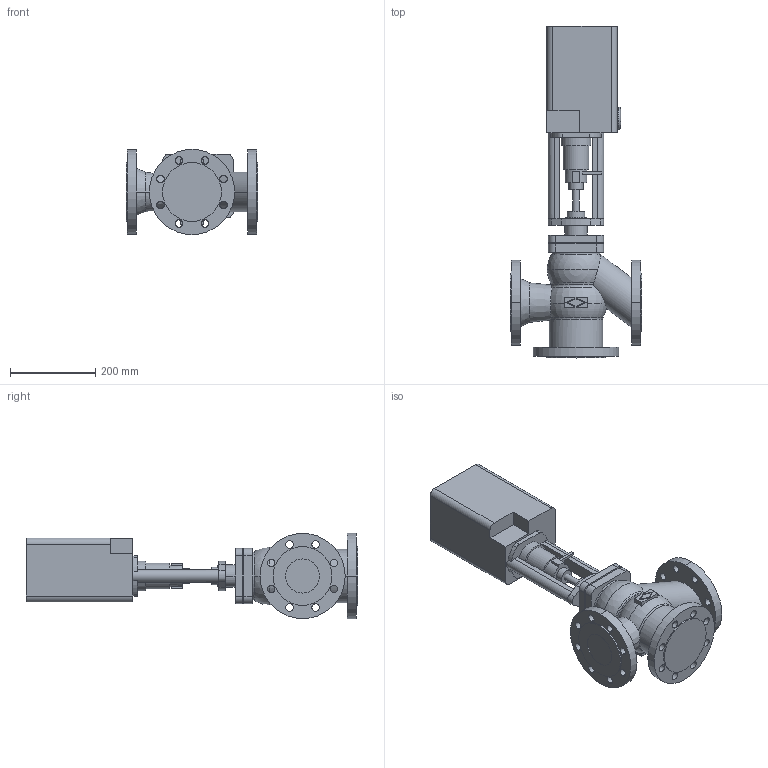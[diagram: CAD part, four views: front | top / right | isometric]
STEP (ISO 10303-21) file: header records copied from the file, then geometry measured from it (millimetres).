
FILE_DESCRIPTION(('OneSpaceDesigner STEP Export'),'2;1');
FILE_NAME('c000000395.stp','2006-09-19T11:48:12',(''),(''),'OneSpace Designer STEP processor for AP214 (Solid Model)','OneSpace Designer 13.20A 18-Aug-2005 (C) CoCreate Software GmbH','');
FILE_SCHEMA(('AUTOMOTIVE_DESIGN { 1 0 10303 214 1 1 1 1 }'));
Length unit declared in the file: millimetre
Products named in the file (2): 1; 2
Bounding box: 310 x 779.5 x 200 mm (x, y, z)
Volume: 13602187.9 mm3; surface area: 697121.8 mm2
Topology: 2 solids, 2 shells, 230 faces, 599 edges, 393 vertices
Faces by surface type: cylinder 116, plane 94, torus 12, sphere 4, cone 4
Entity records: 6657 total; most frequent: CARTESIAN_POINT 1337, ORIENTED_EDGE 1190, DIRECTION 977, EDGE_CURVE 595, VERTEX_POINT 393, AXIS2_PLACEMENT_3D 346, EDGE_LOOP 302, VECTOR 285
